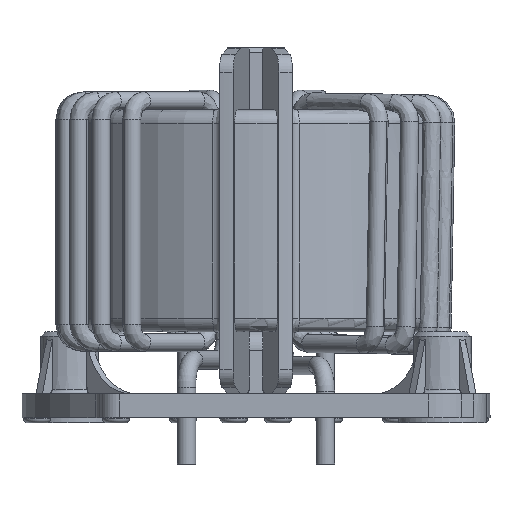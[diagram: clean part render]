
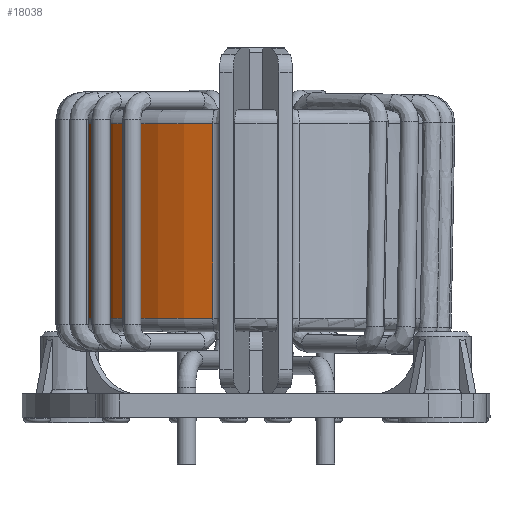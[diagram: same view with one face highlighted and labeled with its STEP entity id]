
A CAD part, left-side view. The second image highlights one B-rep face of the part: STEP entity #18038.
In plain terms, the highlighted cylindrical face has radius 20.1 mm (diameter 40.2 mm), a partial arc.
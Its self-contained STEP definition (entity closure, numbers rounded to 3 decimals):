
#5646=CARTESIAN_POINT('',(-4.608,20.773,1.5));
#5647=VERTEX_POINT('',#5646);
#5679=CARTESIAN_POINT('',(-4.608,20.773,22.83));
#5680=VERTEX_POINT('',#5679);
#5681=CARTESIAN_POINT('',(-4.608,20.773,22.83));
#5682=DIRECTION('',(0.0,0.0,-1.0));
#5683=VECTOR('',#5682,21.33);
#5684=LINE('',#5681,#5683);
#5685=EDGE_CURVE('',#5680,#5647,#5684,.T.);
#17948=CARTESIAN_POINT('',(-20.533,5.742,22.83));
#17949=VERTEX_POINT('',#17948);
#17950=CARTESIAN_POINT('',(-1.0,1.,22.83));
#17951=DIRECTION('',(0.0,0.0,1.0));
#17952=DIRECTION('',(0.0,1.0,0.0));
#17953=AXIS2_PLACEMENT_3D('',#17950,#17951,#17952);
#17954=CIRCLE('',#17953,20.1);
#17955=EDGE_CURVE('',#5680,#17949,#17954,.T.);
#18014=CARTESIAN_POINT('',(-1.0,1.,0.));
#18015=DIRECTION('',(0.0,0.0,1.0));
#18016=DIRECTION('',(0.0,-1.0,0.0));
#18017=AXIS2_PLACEMENT_3D('',#18014,#18015,#18016);
#18018=CYLINDRICAL_SURFACE('',#18017,20.1);
#18019=ORIENTED_EDGE('',*,*,#5685,.T.);
#18020=CARTESIAN_POINT('',(-20.533,5.742,1.5));
#18021=VERTEX_POINT('',#18020);
#18022=CARTESIAN_POINT('',(-1.0,1.,1.5));
#18023=DIRECTION('',(0.0,0.0,-1.0));
#18024=DIRECTION('',(0.0,1.0,0.0));
#18025=AXIS2_PLACEMENT_3D('',#18022,#18023,#18024);
#18026=CIRCLE('',#18025,20.1);
#18027=EDGE_CURVE('',#18021,#5647,#18026,.T.);
#18028=ORIENTED_EDGE('',*,*,#18027,.F.);
#18029=CARTESIAN_POINT('',(-20.533,5.742,22.83));
#18030=DIRECTION('',(0.0,0.0,-1.0));
#18031=VECTOR('',#18030,21.33);
#18032=LINE('',#18029,#18031);
#18033=EDGE_CURVE('',#17949,#18021,#18032,.T.);
#18034=ORIENTED_EDGE('',*,*,#18033,.F.);
#18035=ORIENTED_EDGE('',*,*,#17955,.F.);
#18036=EDGE_LOOP('',(#18019,#18028,#18034,#18035));
#18037=FACE_OUTER_BOUND('',#18036,.T.);
#18038=ADVANCED_FACE('',(#18037),#18018,.T.);
